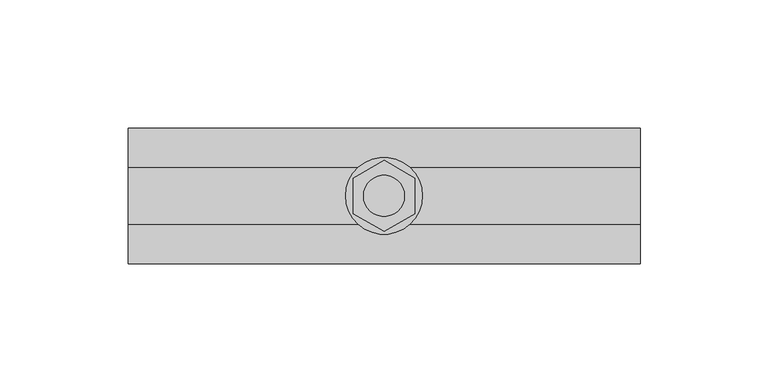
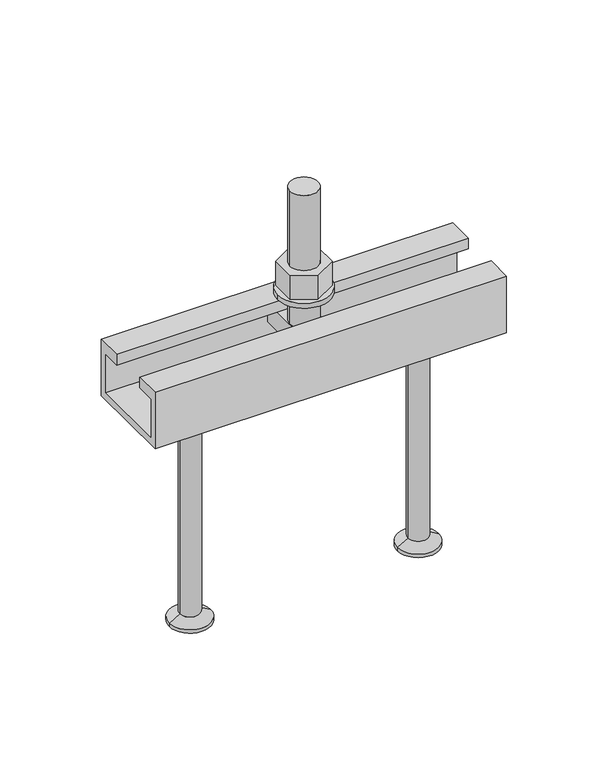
"""IFC4 building model written with IfcOpenShell, lengths in millimetres: beam geometry, JORDAHL_AnchorChannels_JTA_W : JTA W 53/34 200 mm."""

from ifc_helpers import new_model, si_unit, point, frame, frame_2d, origin, place, context, project, spatial, polyline, circle_curve, trimmed, segment, composite_curve, outline, extrude, source, transform, mapped, element, save
from ifc_brep_helpers import plane_surface, cylinder_surface, revolved_surface, advanced_brep


def beam_983bb281(model_context):
    return source(origin(), model_context, "Body", "SolidModel", [
        extrude(outline(composite_curve([segment(trimmed(circle_curve(frame_2d((100.0, 0.0)), 15.0), [point((85.0, 0.0))], [point((115.0, 0.0))], False, "CARTESIAN"), True, "CONTINUOUS"), segment(trimmed(circle_curve(frame_2d((100.0, 0.0)), 15.0), [point((115.0, 0.0))], [point((85.0, 0.0))], False, "CARTESIAN"), True, "CONTINUOUS")], self_intersect=False), holes=[composite_curve([segment(trimmed(circle_curve(frame_2d((100.0, 0.0)), 8.5), [point((91.5, 0.0))], [point((108.5, 0.0))], True, "CARTESIAN"), True, "CONTINUOUS"), segment(trimmed(circle_curve(frame_2d((100.0, 0.0)), 8.5), [point((108.5, 0.0))], [point((91.5, 0.0))], True, "CARTESIAN"), True, "CONTINUOUS")], self_intersect=False)]), frame((0.0, 0.0, 10.0), z_axis=(0.0, 0.0, 1.0), x_axis=(1.0, 0.0, 0.0)), (0.0, 0.0, 1.0), 3.0),
        extrude(outline(polyline([(100.0, 13.8564065), (112.0, 6.9282032), (112.0, -6.9282032), (100.0, -13.8564065), (88.0, -6.9282032), (88.0, 6.9282032), (100.0, 13.8564065)]), holes=[composite_curve([segment(trimmed(circle_curve(frame_2d((100.0, 0.0)), 8.0), [point((92.0, 0.0))], [point((108.0, 0.0))], True, "CARTESIAN"), True, "CONTINUOUS"), segment(trimmed(circle_curve(frame_2d((100.0, 0.0)), 8.0), [point((108.0, 0.0))], [point((92.0, 0.0))], True, "CARTESIAN"), True, "CONTINUOUS")], self_intersect=False)]), frame((0.0, 0.0, 13.0), z_axis=(0.0, 0.0, 1.0), x_axis=(1.0, 0.0, 0.0)), (0.0, 0.0, 1.0), 14.8),
        advanced_brep(
        [(108.5, 20.75, -7.0), (108.5, -20.75, -7.0), (108.5, -20.75, -18.0), (108.5, 20.75, -18.0), (91.5, 20.75, -7.0), (91.5, 20.75, -18.0), (91.5, -20.75, -18.0), (91.5, -20.75, -7.0), (108.0, 0.0, -7.0), (92.0, 0.0, -7.0), (92.0, 0.0, 73.0), (108.0, 0.0, 73.0)],
        [
            (0, 1),
            (1, 2),
            (2, 3),
            (3, 0),
            (4, 5),
            (5, 6),
            (6, 7),
            (7, 4),
            (0, 4),
            (7, 1),
            (8, 9, circle_curve(frame((100.0, 0.0, -7.0), z_axis=(0.0, 0.0, -1.0), x_axis=(1.0, 0.0, 0.0)), 8.0)),
            (9, 8, circle_curve(frame((100.0, 0.0, -7.0), z_axis=(0.0, 0.0, -1.0), x_axis=(1.0, 0.0, 0.0)), 8.0)),
            (6, 2),
            (5, 3),
            (10, 11, circle_curve(frame((100.0, 0.0, 73.0), z_axis=(0.0, 0.0, 1.0), x_axis=(1.0, 0.0, 0.0)), 8.0)),
            (11, 10, circle_curve(frame((100.0, 0.0, 73.0), z_axis=(0.0, 0.0, 1.0), x_axis=(1.0, 0.0, 0.0)), 8.0)),
            (10, 9),
            (8, 11),
        ],
        [
            plane_surface(frame((108.5, -12.25, -7.0), z_axis=(1.0, 0.0, 0.0), x_axis=(0.0, -1.0, 0.0))),
            plane_surface(frame((91.5, -12.25, -7.0), z_axis=(-1.0, 0.0, 0.0), x_axis=(0.0, 1.0, 0.0))),
            plane_surface(frame((108.5, 20.75, -7.0), z_axis=(0.0, 0.0, 1.0), x_axis=(-1.0, 0.0, 0.0))),
            plane_surface(frame((108.5, -20.75, -7.0), z_axis=(0.0, -1.0, 0.0), x_axis=(-1.0, 0.0, 0.0))),
            plane_surface(frame((108.5, -20.75, -18.0), z_axis=(0.0, 0.0, -1.0), x_axis=(-1.0, 0.0, 0.0))),
            plane_surface(frame((108.5, 20.75, -18.0), z_axis=(0.0, 1.0, 0.0), x_axis=(-1.0, 0.0, 0.0))),
            plane_surface(frame((108.0, 0.0, 73.0), z_axis=(0.0, 0.0, 1.0), x_axis=(0.0, 1.0, 0.0))),
            cylinder_surface(frame((100.0, 0.0, -7.0), z_axis=(0.0, 0.0, 1.0), x_axis=(1.0, 0.0, 0.0)), 8.0),
        ],
        [
            (0, [[1, 2, 3, 4]]),
            (1, [[5, 6, 7, 8]]),
            (2, [[-1, 9, -8, 10], [11, 12]]),
            (3, [[-2, -10, -7, 13]]),
            (4, [[-3, -13, -6, 14]]),
            (5, [[-4, -14, -5, -9]]),
            (6, [[15, 16]]),
            (7, [[-15, 17, -11, 18]]),
            (7, [[-16, -18, -12, -17]]),
        ],
    ),
        advanced_brep(
        [(165.0, 0.0, -34.0), (182.5, 0.0, -34.0), (147.5, 0.0, -34.0), (153.2, 0.0, -165.0), (176.8, 0.0, -165.0), (165.0, 0.0, -165.0), (153.2, 0.0, -163.0), (176.8, 0.0, -163.0), (159.2, 0.0, -159.5358984), (170.8, 0.0, -159.5358984), (159.2, 0.0, -37.0), (170.8, 0.0, -37.0)],
        [
            (0, 1),
            (1, 2, circle_curve(frame((165.0, 0.0, -34.0), z_axis=(0.0, 0.0, 1.0), x_axis=(1.0, 0.0, 0.0)), 17.5)),
            (2, 0),
            (2, 1, circle_curve(frame((165.0, 0.0, -34.0), z_axis=(0.0, 0.0, 1.0), x_axis=(1.0, 0.0, 0.0)), 17.5)),
            (3, 4, circle_curve(frame((165.0, 0.0, -165.0), z_axis=(0.0, 0.0, -1.0), x_axis=(1.0, 0.0, 0.0)), 11.8)),
            (4, 5),
            (5, 3),
            (4, 3, circle_curve(frame((165.0, 0.0, -165.0), z_axis=(0.0, 0.0, -1.0), x_axis=(1.0, 0.0, 0.0)), 11.8)),
            (6, 7, circle_curve(frame((165.0, 0.0, -163.0), z_axis=(0.0, 0.0, -1.0), x_axis=(1.0, 0.0, 0.0)), 11.8)),
            (7, 4),
            (3, 6),
            (7, 6, circle_curve(frame((165.0, 0.0, -163.0), z_axis=(0.0, 0.0, -1.0), x_axis=(1.0, 0.0, 0.0)), 11.8)),
            (8, 9, circle_curve(frame((165.0, 0.0, -159.5358984), z_axis=(0.0, 0.0, -1.0), x_axis=(1.0, 0.0, 0.0)), 5.8)),
            (9, 7),
            (6, 8),
            (9, 8, circle_curve(frame((165.0, 0.0, -159.5358984), z_axis=(0.0, 0.0, -1.0), x_axis=(1.0, 0.0, 0.0)), 5.8)),
            (10, 11, circle_curve(frame((165.0, 0.0, -37.0), z_axis=(0.0, 0.0, -1.0), x_axis=(1.0, 0.0, 0.0)), 5.8)),
            (11, 9),
            (8, 10),
            (11, 10, circle_curve(frame((165.0, 0.0, -37.0), z_axis=(0.0, 0.0, -1.0), x_axis=(1.0, 0.0, 0.0)), 5.8)),
            (1, 11),
            (10, 2),
        ],
        [
            plane_surface(frame((165.0, 0.0, -34.0), z_axis=(0.0, 0.0, 1.0), x_axis=(1.0, 0.0, 0.0))),
            plane_surface(frame((165.0, 0.0, -165.0), z_axis=(0.0, 0.0, -1.0), x_axis=(1.0, 0.0, 0.0))),
            cylinder_surface(frame((165.0, 0.0, 2214.3150031), z_axis=(0.0, 0.0, 1.0), x_axis=(1.0, 0.0, 0.0)), 11.8),
            revolved_surface(polyline([(176.8, 0.0, -163.0), (170.8, 0.0, -159.5358984)]), (165.0, 0.0, 2214.3150031), (0.0, 0.0, 1.0)),
            cylinder_surface(frame((165.0, 0.0, 2214.3150031), z_axis=(0.0, 0.0, 1.0), x_axis=(1.0, 0.0, 0.0)), 5.8),
            revolved_surface(polyline([(170.8, 0.0, -37.0), (182.5, 0.0, -34.0)]), (165.0, 0.0, 2214.3150031), (0.0, 0.0, 1.0)),
        ],
        [
            (0, [[1, 2, 3]]),
            (0, [[-3, 4, -1]]),
            (1, [[5, 6, 7]]),
            (1, [[8, -7, -6]]),
            (2, [[9, 10, -5, 11]]),
            (2, [[12, -11, -8, -10]]),
            (3, [[13, 14, -9, 15]]),
            (3, [[16, -15, -12, -14]]),
            (4, [[17, 18, -13, 19]]),
            (4, [[20, -19, -16, -18]]),
            (5, [[-2, 21, -17, 22]]),
            (5, [[-4, -22, -20, -21]]),
        ],
    ),
        advanced_brep(
        [(35.0, 0.0, -34.0), (52.5, 0.0, -34.0), (17.5, 0.0, -34.0), (23.2, 0.0, -165.0), (46.8, 0.0, -165.0), (35.0, 0.0, -165.0), (23.2, 0.0, -163.0), (46.8, 0.0, -163.0), (29.2, 0.0, -159.5358984), (40.8, 0.0, -159.5358984), (29.2, 0.0, -37.0), (40.8, 0.0, -37.0)],
        [
            (0, 1),
            (1, 2, circle_curve(frame((35.0, 0.0, -34.0), z_axis=(0.0, 0.0, 1.0), x_axis=(1.0, 0.0, 0.0)), 17.5)),
            (2, 0),
            (2, 1, circle_curve(frame((35.0, 0.0, -34.0), z_axis=(0.0, 0.0, 1.0), x_axis=(1.0, 0.0, 0.0)), 17.5)),
            (3, 4, circle_curve(frame((35.0, 0.0, -165.0), z_axis=(0.0, 0.0, -1.0), x_axis=(1.0, 0.0, 0.0)), 11.8)),
            (4, 5),
            (5, 3),
            (4, 3, circle_curve(frame((35.0, 0.0, -165.0), z_axis=(0.0, 0.0, -1.0), x_axis=(1.0, 0.0, 0.0)), 11.8)),
            (6, 7, circle_curve(frame((35.0, 0.0, -163.0), z_axis=(0.0, 0.0, -1.0), x_axis=(1.0, 0.0, 0.0)), 11.8)),
            (7, 4),
            (3, 6),
            (7, 6, circle_curve(frame((35.0, 0.0, -163.0), z_axis=(0.0, 0.0, -1.0), x_axis=(1.0, 0.0, 0.0)), 11.8)),
            (8, 9, circle_curve(frame((35.0, 0.0, -159.5358984), z_axis=(0.0, 0.0, -1.0), x_axis=(1.0, 0.0, 0.0)), 5.8)),
            (9, 7),
            (6, 8),
            (9, 8, circle_curve(frame((35.0, 0.0, -159.5358984), z_axis=(0.0, 0.0, -1.0), x_axis=(1.0, 0.0, 0.0)), 5.8)),
            (10, 11, circle_curve(frame((35.0, 0.0, -37.0), z_axis=(0.0, 0.0, -1.0), x_axis=(1.0, 0.0, 0.0)), 5.8)),
            (11, 9),
            (8, 10),
            (11, 10, circle_curve(frame((35.0, 0.0, -37.0), z_axis=(0.0, 0.0, -1.0), x_axis=(1.0, 0.0, 0.0)), 5.8)),
            (1, 11),
            (10, 2),
        ],
        [
            plane_surface(frame((35.0, 0.0, -34.0), z_axis=(0.0, 0.0, 1.0), x_axis=(1.0, 0.0, 0.0))),
            plane_surface(frame((35.0, 0.0, -165.0), z_axis=(0.0, 0.0, -1.0), x_axis=(1.0, 0.0, 0.0))),
            cylinder_surface(frame((35.0, 0.0, 2214.3150031), z_axis=(0.0, 0.0, 1.0), x_axis=(1.0, 0.0, 0.0)), 11.8),
            revolved_surface(polyline([(46.8, 0.0, -163.0), (40.8, 0.0, -159.5358984)]), (35.0, 0.0, 2214.3150031), (0.0, 0.0, 1.0)),
            cylinder_surface(frame((35.0, 0.0, 2214.3150031), z_axis=(0.0, 0.0, 1.0), x_axis=(1.0, 0.0, 0.0)), 5.8),
            revolved_surface(polyline([(40.8, 0.0, -37.0), (52.5, 0.0, -34.0)]), (35.0, 0.0, 2214.3150031), (0.0, 0.0, 1.0)),
        ],
        [
            (0, [[1, 2, 3]]),
            (0, [[-3, 4, -1]]),
            (1, [[5, 6, 7]]),
            (1, [[8, -7, -6]]),
            (2, [[9, 10, -5, 11]]),
            (2, [[12, -11, -8, -10]]),
            (3, [[13, 14, -9, 15]]),
            (3, [[16, -15, -12, -14]]),
            (4, [[17, 18, -13, 19]]),
            (4, [[20, -19, -16, -18]]),
            (5, [[-2, 21, -17, 22]]),
            (5, [[-4, -22, -20, -21]]),
        ],
    ),
        extrude(outline(polyline([(26.5, 0.0), (26.5, -34.0), (-26.5, -34.0), (-26.5, 0.0), (-11.25, 0.0), (-11.25, -6.5), (-22.5, -6.5), (-22.5, -30.0), (22.5, -30.0), (22.5, -6.5), (11.25, -6.5), (11.25, 0.0), (26.5, 0.0)])), frame((0.0, 0.0, 0.0), z_axis=(1.0, 0.0, 0.0), x_axis=(0.0, 1.0, 0.0)), (0.0, 0.0, 1.0), 200.0),
    ])


if __name__ == "__main__":
    model = new_model("IFC4")
    model_context = context("Model", 3, world=origin())
    ifc_project = project(units=[si_unit("LENGTHUNIT", "METRE", prefix="MILLI")], contexts=[model_context])
    site = spatial("IfcSite", under=ifc_project)
    building = spatial("IfcBuilding", under=site)
    placement = place(None, origin())
    beam_shape = beam_983bb281(model_context)
    element("IfcBeam", 1, ObjectType="JORDAHL_AnchorChannels_JTA_W : JTA W 53/34 200 mm", at=placement, inside=building, context=model_context, shape_type="MappedRepresentation", body=[
        mapped(beam_shape, transform((0.0, 0.0, 0.0), x_axis=(1.0, 0.0, 0.0), y_axis=(0.0, 1.0, 0.0), z_axis=(0.0, 0.0, 1.0))),
    ])
    save(model, "model.ifc")
